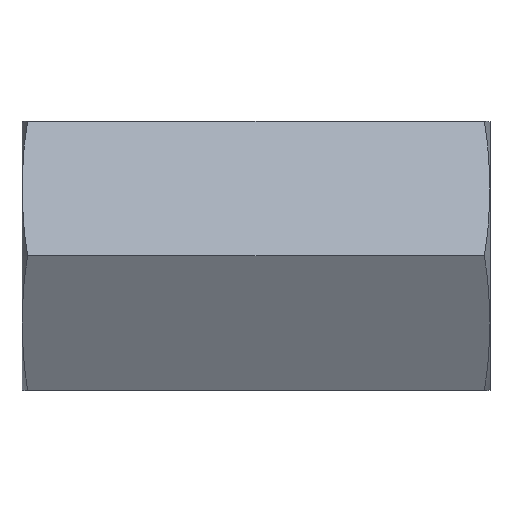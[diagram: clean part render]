
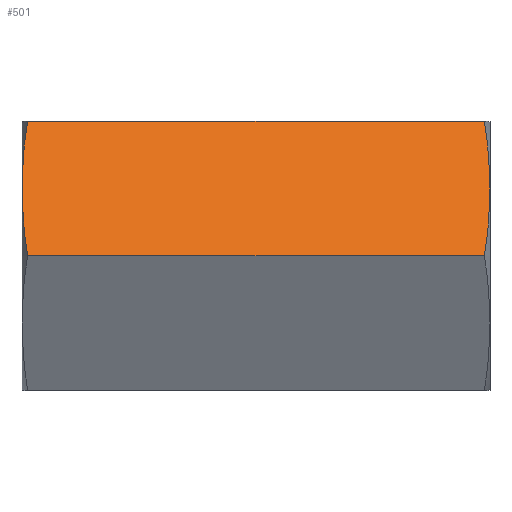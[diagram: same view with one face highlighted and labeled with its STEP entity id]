
A CAD part, top view. The second image highlights one B-rep face of the part: STEP entity #501.
In plain terms, the highlighted planar face has unit normal (0, 0.5, 0.866).
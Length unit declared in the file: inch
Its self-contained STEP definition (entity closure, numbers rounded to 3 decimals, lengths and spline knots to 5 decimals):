
#501 = ADVANCED_FACE( '', ( #1101 ), #1102, .F. );
#1101 = FACE_OUTER_BOUND( '', #5463, .T. );
#1102 = PLANE( '', #5464 );
#5463 = EDGE_LOOP( '', ( #8874, #8875, #8876, #8877, #8878, #8879 ) );
#5464 = AXIS2_PLACEMENT_3D( '', #8880, #8881, #8882 );
#8874 = ORIENTED_EDGE( '', *, *, #10314, .F. );
#8875 = ORIENTED_EDGE( '', *, *, #9695, .T. );
#8876 = ORIENTED_EDGE( '', *, *, #9810, .F. );
#8877 = ORIENTED_EDGE( '', *, *, #10315, .F. );
#8878 = ORIENTED_EDGE( '', *, *, #9727, .F. );
#8879 = ORIENTED_EDGE( '', *, *, #9911, .F. );
#8880 = CARTESIAN_POINT( '', ( 3.917, 1.125, 0.64952 ) );
#8881 = DIRECTION( '', ( 0., -0.5, -0.866 ) );
#8882 = DIRECTION( '', ( 0., 0.866, -0.5 ) );
#9695 = EDGE_CURVE( '', #10465, #10463, #10466, .T. );
#9727 = EDGE_CURVE( '', #10517, #10520, #10521, .T. );
#9810 = EDGE_CURVE( '', #10666, #10463, #10667, .T. );
#9911 = EDGE_CURVE( '', #10836, #10517, #10837, .T. );
#10314 = EDGE_CURVE( '', #10465, #10836, #11431, .T. );
#10315 = EDGE_CURVE( '', #10520, #10666, #11432, .T. );
#10463 = VERTEX_POINT( '', #11601 );
#10465 = VERTEX_POINT( '', #11608 );
#10466 = LINE( '', #11609, #11610 );
#10517 = VERTEX_POINT( '', #12553 );
#10520 = VERTEX_POINT( '', #12561 );
#10521 = LINE( '', #12562, #12563 );
#10666 = VERTEX_POINT( '', #13330 );
#10667 = B_SPLINE_CURVE_WITH_KNOTS( '', 3, ( #13331, #13332, #13333, #13334, #13335, #13336 ), .UNSPECIFIED., .F., .F., ( 4, 2, 4 ), ( 0.0165, 0.02475, 0.033 ), .UNSPECIFIED. );
#10836 = VERTEX_POINT( '', #14190 );
#10837 = B_SPLINE_CURVE_WITH_KNOTS( '', 3, ( #14191, #14192, #14193, #14194, #14195, #14196 ), .UNSPECIFIED., .F., .F., ( 4, 2, 4 ), ( 0.0165, 0.02475, 0.033 ), .UNSPECIFIED. );
#11431 = B_SPLINE_CURVE_WITH_KNOTS( '', 3, ( #16264, #16265, #16266, #16267, #16268, #16269 ), .UNSPECIFIED., .F., .F., ( 4, 2, 4 ), ( 0., 0.00825, 0.0165 ), .UNSPECIFIED. );
#11432 = B_SPLINE_CURVE_WITH_KNOTS( '', 3, ( #16270, #16271, #16272, #16273, #16274, #16275 ), .UNSPECIFIED., .F., .F., ( 4, 2, 4 ), ( 0., 0.00825, 0.0165 ), .UNSPECIFIED. );
#11601 = CARTESIAN_POINT( '', ( 0.04663, 1.125, 0.64952 ) );
#11608 = CARTESIAN_POINT( '', ( 3.87037, 1.125, 0.64952 ) );
#11609 = CARTESIAN_POINT( '', ( 3.917, 1.125, 0.64952 ) );
#11610 = VECTOR( '', #16606, 39.37008 );
#12553 = CARTESIAN_POINT( '', ( 3.87037, 0., 1.29904 ) );
#12561 = CARTESIAN_POINT( '', ( 0.04663, 0., 1.29904 ) );
#12562 = CARTESIAN_POINT( '', ( 3.917, 0., 1.29904 ) );
#12563 = VECTOR( '', #16623, 39.37008 );
#13330 = CARTESIAN_POINT( '', ( 0., 0.5625, 0.97428 ) );
#13331 = CARTESIAN_POINT( '', ( 0., 0.5625, 0.97428 ) );
#13332 = CARTESIAN_POINT( '', ( 0., 0.65625, 0.92015 ) );
#13333 = CARTESIAN_POINT( '', ( 0.00426, 0.75, 0.86603 ) );
#13334 = CARTESIAN_POINT( '', ( 0.02035, 0.9375, 0.75777 ) );
#13335 = CARTESIAN_POINT( '', ( 0.03213, 1.03125, 0.70365 ) );
#13336 = CARTESIAN_POINT( '', ( 0.04663, 1.125, 0.64952 ) );
#14190 = CARTESIAN_POINT( '', ( 3.917, 0.5625, 0.97428 ) );
#14191 = CARTESIAN_POINT( '', ( 3.917, 0.5625, 0.97428 ) );
#14192 = CARTESIAN_POINT( '', ( 3.917, 0.46875, 1.02841 ) );
#14193 = CARTESIAN_POINT( '', ( 3.91274, 0.375, 1.08253 ) );
#14194 = CARTESIAN_POINT( '', ( 3.89665, 0.1875, 1.19078 ) );
#14195 = CARTESIAN_POINT( '', ( 3.88487, 0.09375, 1.24491 ) );
#14196 = CARTESIAN_POINT( '', ( 3.87037, 0., 1.29904 ) );
#16264 = CARTESIAN_POINT( '', ( 3.87037, 1.125, 0.64952 ) );
#16265 = CARTESIAN_POINT( '', ( 3.88487, 1.03125, 0.70365 ) );
#16266 = CARTESIAN_POINT( '', ( 3.89665, 0.9375, 0.75777 ) );
#16267 = CARTESIAN_POINT( '', ( 3.91274, 0.75, 0.86603 ) );
#16268 = CARTESIAN_POINT( '', ( 3.917, 0.65625, 0.92015 ) );
#16269 = CARTESIAN_POINT( '', ( 3.917, 0.5625, 0.97428 ) );
#16270 = CARTESIAN_POINT( '', ( 0.04663, 0., 1.29904 ) );
#16271 = CARTESIAN_POINT( '', ( 0.03213, 0.09375, 1.24491 ) );
#16272 = CARTESIAN_POINT( '', ( 0.02035, 0.1875, 1.19078 ) );
#16273 = CARTESIAN_POINT( '', ( 0.00426, 0.375, 1.08253 ) );
#16274 = CARTESIAN_POINT( '', ( 0., 0.46875, 1.02841 ) );
#16275 = CARTESIAN_POINT( '', ( 0., 0.5625, 0.97428 ) );
#16606 = DIRECTION( '', ( -1., 0., 0. ) );
#16623 = DIRECTION( '', ( -1., 0., 0. ) );
